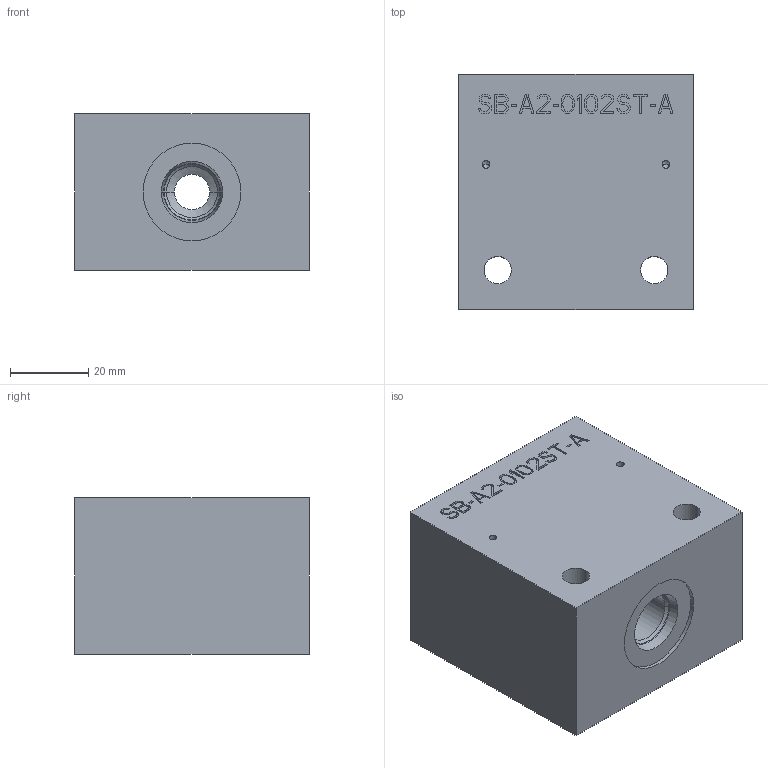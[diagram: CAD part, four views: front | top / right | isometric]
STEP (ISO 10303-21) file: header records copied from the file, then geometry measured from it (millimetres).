
FILE_DESCRIPTION((''),'2;1');
FILE_NAME('243657','2023-10-11T',('l.soukupova'),(''),'PRO/ENGINEER BY PARAMETRIC TECHNOLOGY CORPORATION, 2015440','PRO/ENGINEER BY PARAMETRIC TECHNOLOGY CORPORATION, 2015440','');
FILE_SCHEMA(('AUTOMOTIVE_DESIGN { 1 0 10303 214 1 1 1 1 }'));
Length unit declared in the file: millimetre
Products named in the file (1): 243657
Bounding box: 60 x 60 x 40 mm (x, y, z)
Volume: 127542.8 mm3; surface area: 23305.6 mm2
Topology: 1 solids, 4 shells, 428 faces, 1189 edges, 800 vertices
Faces by surface type: plane 372, cylinder 32, cone 24
Entity records: 17228 total; most frequent: CARTESIAN_POINT 2502, ORIENTED_EDGE 2332, DIRECTION 2137, PRESENTATION_STYLE_ASSIGNMENT 1199, STYLED_ITEM 1199, CURVE_STYLE 1195, EDGE_CURVE 1172, VECTOR 1099
